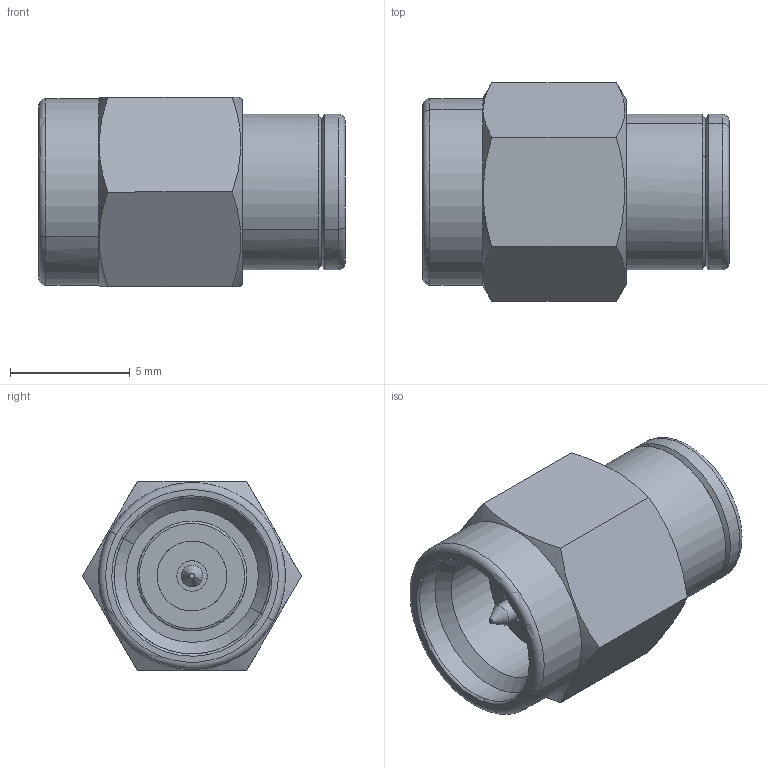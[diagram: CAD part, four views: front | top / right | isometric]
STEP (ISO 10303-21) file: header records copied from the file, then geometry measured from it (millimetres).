
FILE_DESCRIPTION(('CATIA V5 STEP Exchange'),'2;1');
FILE_NAME('D:\Work SZ\CMP 图纸\Termination\2.92mm\016 TP-2.92M-016\TP-2.92M-016.stp','2021-02-22T04:07:11+00:00',('none'),('none'),'CATIA Version 5 Release 20 GA (IN-10)','CATIA V5 STEP AP203','none');
FILE_SCHEMA(('CONFIG_CONTROL_DESIGN'));
Length unit declared in the file: millimetre
Products named in the file (1): TP-2.92M-007(REV.A)
Bounding box: 12.8 x 9.12 x 7.9 mm (x, y, z)
Volume: 456.4 mm3; surface area: 593 mm2
Topology: 1 solids, 1 shells, 58 faces, 126 edges, 76 vertices
Faces by surface type: cylinder 20, cone 16, plane 14, torus 8
Entity records: 1915 total; most frequent: CARTESIAN_POINT 704, ORIENTED_EDGE 252, DIRECTION 198, EDGE_CURVE 126, AXIS2_PLACEMENT_3D 104, VERTEX_POINT 76, EDGE_LOOP 64, ADVANCED_FACE 58
